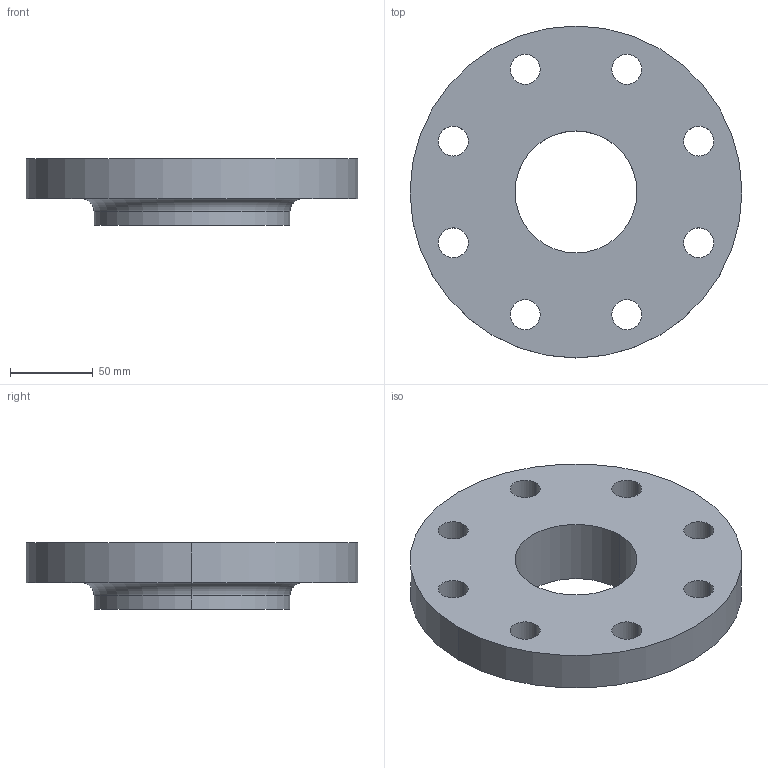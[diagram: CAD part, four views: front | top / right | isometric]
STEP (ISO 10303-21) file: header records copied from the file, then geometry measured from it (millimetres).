
FILE_DESCRIPTION (( 'STEP AP214' ), '1' );
FILE_NAME ('PN40 DN80 Type 13 - Type A Face.STEP', '2019-01-01T19:38:53', ( '' ), ( '' ), 'SwSTEP 2.0', 'SolidWorks 2019', '' );
FILE_SCHEMA (( 'AUTOMOTIVE_DESIGN' ));
Length unit declared in the file: millimetre
Products named in the file (1): PN40 DN80 Type 13 - Type A Face
Bounding box: 200 x 200 x 40 mm (x, y, z)
Volume: 715604.3 mm3; surface area: 90134.2 mm2
Topology: 1 solids, 1 shells, 27 faces, 70 edges, 46 vertices
Faces by surface type: cylinder 22, plane 3, torus 2
Entity records: 926 total; most frequent: DIRECTION 174, CARTESIAN_POINT 144, ORIENTED_EDGE 140, AXIS2_PLACEMENT_3D 76, EDGE_CURVE 70, CIRCLE 48, EDGE_LOOP 46, VERTEX_POINT 46
